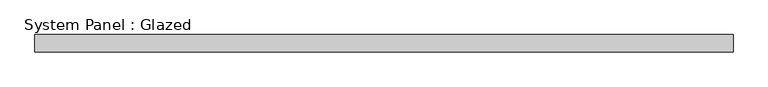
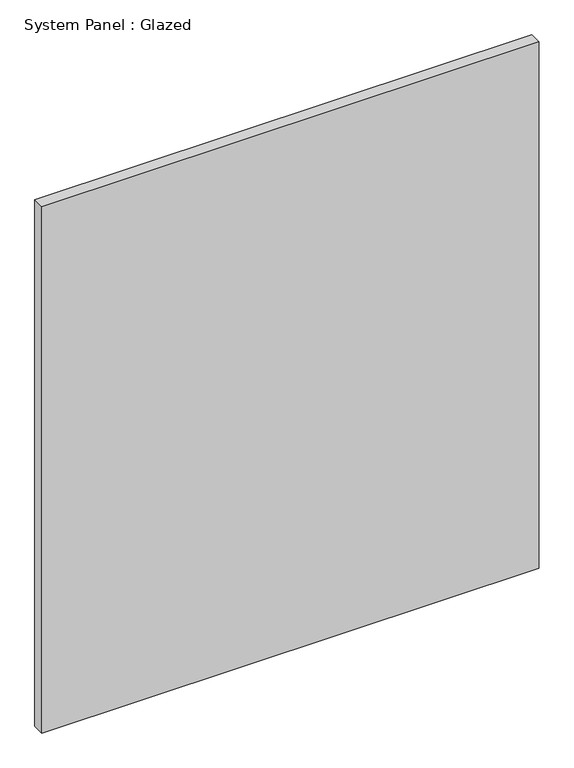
"""IFC4 building model written with IfcOpenShell, lengths in millimetres: plate geometry, System Panel : Glazed."""

from ifc_helpers import new_model, si_unit, origin, origin_with_axes, place, context, project, spatial, polyline, outline, extrude, source, transform, mapped, element, save


def system_panel_glazed_5f70e372(model_context):
    return source(origin(), model_context, "Body", "SweptSolid", [
        extrude(outline(polyline([(516.255, -44.45), (-516.255, -44.45), (-516.255, -19.05), (516.255, -19.05), (516.255, -44.45)])), origin_with_axes(), (0.0, 0.0, 1.0), 1155.7),
    ])


if __name__ == "__main__":
    model = new_model("IFC4")
    model_context = context("Model", 3, world=origin())
    ifc_project = project(units=[si_unit("LENGTHUNIT", "METRE", prefix="MILLI")], contexts=[model_context])
    site = spatial("IfcSite", under=ifc_project)
    building = spatial("IfcBuilding", under=site)
    placement = place(None, origin())
    system_panel_glazed_shape = system_panel_glazed_5f70e372(model_context)
    element("IfcPlate", 1, ObjectType="System Panel : Glazed", at=placement, inside=building, context=model_context, shape_type="MappedRepresentation", body=[
        mapped(system_panel_glazed_shape, transform((0.0, 0.0, 0.0), x_axis=(1.0, 0.0, 0.0), y_axis=(0.0, 1.0, 0.0), z_axis=(0.0, 0.0, 1.0))),
    ])
    save(model, "model.ifc")
